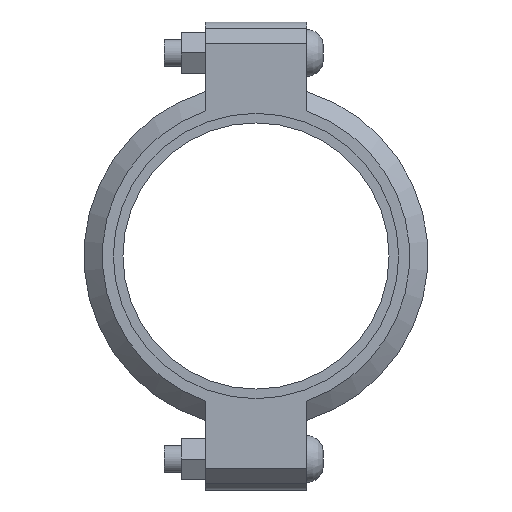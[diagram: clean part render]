
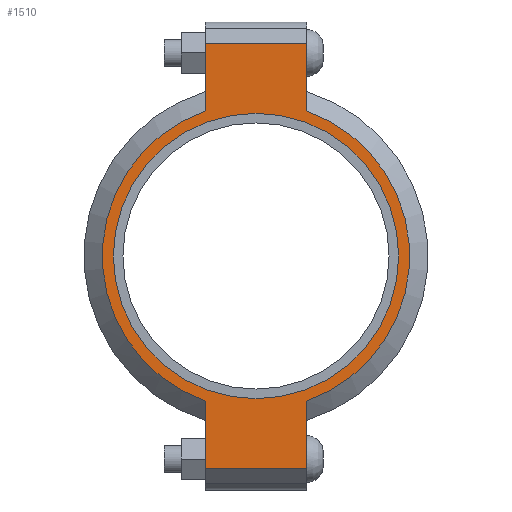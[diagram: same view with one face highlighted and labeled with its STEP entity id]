
A CAD part, left-side view. The second image highlights one B-rep face of the part: STEP entity #1510.
In plain terms, the highlighted planar face has unit normal (-1, 0, 0) as drawn and (0, 0, 1) by its records, which use the part's own axes.
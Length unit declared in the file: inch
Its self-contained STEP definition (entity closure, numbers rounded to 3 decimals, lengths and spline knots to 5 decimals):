
#134=LINE('',#2635,#227);
#142=LINE('',#2671,#235);
#149=LINE('',#2692,#242);
#158=LINE('',#2724,#251);
#159=LINE('',#2728,#252);
#160=LINE('',#2730,#253);
#227=VECTOR('',#2155,0.3937);
#235=VECTOR('',#2171,0.3937);
#242=VECTOR('',#2190,0.3937);
#251=VECTOR('',#2215,0.3937);
#252=VECTOR('',#2220,0.3937);
#253=VECTOR('',#2221,0.3937);
#309=FACE_BOUND('',#487,.T.);
#381=FACE_OUTER_BOUND('',#486,.T.);
#486=EDGE_LOOP('',(#1251,#1252,#1253,#1254,#1255,#1256,#1257,#1258));
#487=EDGE_LOOP('',(#1259));
#559=CIRCLE('',#1729,3.25);
#585=CIRCLE('',#1788,3.5);
#586=CIRCLE('',#1789,3.5);
#651=VERTEX_POINT('',#2451);
#694=VERTEX_POINT('',#2632);
#695=VERTEX_POINT('',#2634);
#706=VERTEX_POINT('',#2666);
#707=VERTEX_POINT('',#2670);
#714=VERTEX_POINT('',#2689);
#715=VERTEX_POINT('',#2691);
#725=VERTEX_POINT('',#2727);
#726=VERTEX_POINT('',#2729);
#807=EDGE_CURVE('',#651,#651,#559,.T.);
#868=EDGE_CURVE('',#695,#694,#134,.T.);
#882=EDGE_CURVE('',#707,#706,#142,.T.);
#892=EDGE_CURVE('',#715,#714,#149,.T.);
#907=EDGE_CURVE('',#707,#694,#158,.T.);
#908=EDGE_CURVE('',#706,#715,#585,.T.);
#909=EDGE_CURVE('',#725,#714,#159,.T.);
#910=EDGE_CURVE('',#725,#726,#160,.T.);
#911=EDGE_CURVE('',#726,#695,#586,.T.);
#1251=ORIENTED_EDGE('',*,*,#907,.F.);
#1252=ORIENTED_EDGE('',*,*,#882,.T.);
#1253=ORIENTED_EDGE('',*,*,#908,.T.);
#1254=ORIENTED_EDGE('',*,*,#892,.T.);
#1255=ORIENTED_EDGE('',*,*,#909,.F.);
#1256=ORIENTED_EDGE('',*,*,#910,.T.);
#1257=ORIENTED_EDGE('',*,*,#911,.T.);
#1258=ORIENTED_EDGE('',*,*,#868,.T.);
#1259=ORIENTED_EDGE('',*,*,#807,.T.);
#1352=PLANE('',#1787);
#1510=ADVANCED_FACE('',(#381,#309),#1352,.T.);
#1729=AXIS2_PLACEMENT_3D('',#2453,#2031,#2032);
#1787=AXIS2_PLACEMENT_3D('',#2725,#2216,#2217);
#1788=AXIS2_PLACEMENT_3D('',#2726,#2218,#2219);
#1789=AXIS2_PLACEMENT_3D('',#2731,#2222,#2223);
#2031=DIRECTION('center_axis',(0.,0.,-1.));
#2032=DIRECTION('ref_axis',(-1.,0.,0.));
#2155=DIRECTION('',(-1.,0.,0.));
#2171=DIRECTION('',(1.,0.,0.));
#2190=DIRECTION('',(1.,0.,0.));
#2215=DIRECTION('',(0.,1.,0.));
#2216=DIRECTION('center_axis',(0.,0.,1.));
#2217=DIRECTION('ref_axis',(1.,0.,0.));
#2218=DIRECTION('center_axis',(0.,0.,1.));
#2219=DIRECTION('ref_axis',(-1.,0.,0.));
#2220=DIRECTION('',(0.,-1.,0.));
#2221=DIRECTION('',(-1.,0.,0.));
#2222=DIRECTION('center_axis',(0.,0.,1.));
#2223=DIRECTION('ref_axis',(-1.,0.,0.));
#2451=CARTESIAN_POINT('',(3.25,0.,1.04));
#2453=CARTESIAN_POINT('Origin',(0.,0.,1.04));
#2632=CARTESIAN_POINT('',(-4.83,1.156,1.04));
#2634=CARTESIAN_POINT('',(-3.30358,1.156,1.04));
#2635=CARTESIAN_POINT('',(-5.33,1.156,1.04));
#2666=CARTESIAN_POINT('',(-3.30358,-1.156,1.04));
#2670=CARTESIAN_POINT('',(-4.83,-1.156,1.04));
#2671=CARTESIAN_POINT('',(5.33,-1.156,1.04));
#2689=CARTESIAN_POINT('',(4.83,-1.156,1.04));
#2691=CARTESIAN_POINT('',(3.30358,-1.156,1.04));
#2692=CARTESIAN_POINT('',(5.33,-1.156,1.04));
#2724=CARTESIAN_POINT('',(-4.83,0.578,1.04));
#2725=CARTESIAN_POINT('Origin',(0.,0.,1.04));
#2726=CARTESIAN_POINT('Origin',(0.,0.,1.04));
#2727=CARTESIAN_POINT('',(4.83,1.156,1.04));
#2728=CARTESIAN_POINT('',(4.83,-0.578,1.04));
#2729=CARTESIAN_POINT('',(3.30358,1.156,1.04));
#2730=CARTESIAN_POINT('',(-5.33,1.156,1.04));
#2731=CARTESIAN_POINT('Origin',(0.,0.,1.04));
